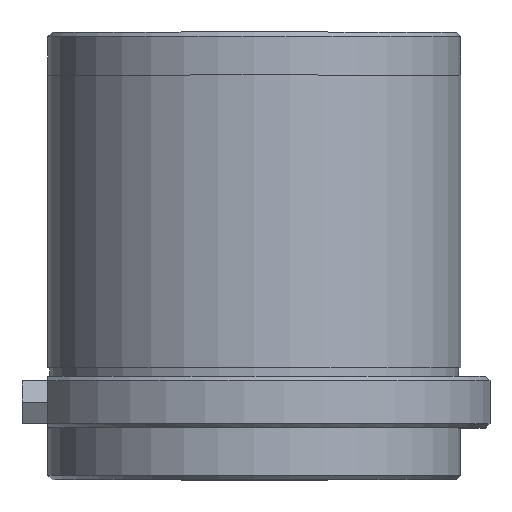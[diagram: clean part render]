
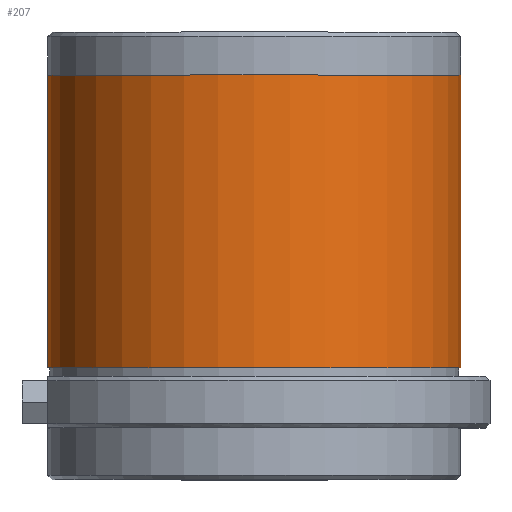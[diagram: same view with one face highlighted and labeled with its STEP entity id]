
A CAD part, top view. The second image highlights one B-rep face of the part: STEP entity #207.
In plain terms, the highlighted cylindrical face has radius 24 mm (diameter 48 mm), a full revolution.
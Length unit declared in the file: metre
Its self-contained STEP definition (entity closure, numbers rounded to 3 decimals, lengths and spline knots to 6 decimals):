
#207 = ADVANCED_FACE( '', ( #311, #312 ), #313, .T. );
#311 = FACE_OUTER_BOUND( '', #442, .T. );
#312 = FACE_OUTER_BOUND( '', #443, .T. );
#313 = CYLINDRICAL_SURFACE( '', #444, 0.024 );
#442 = EDGE_LOOP( '', ( #1821 ) );
#443 = EDGE_LOOP( '', ( #1822 ) );
#444 = AXIS2_PLACEMENT_3D( '', #1823, #1824, #1825 );
#1821 = ORIENTED_EDGE( '', *, *, #1963, .T. );
#1822 = ORIENTED_EDGE( '', *, *, #1964, .F. );
#1823 = CARTESIAN_POINT( '', ( 0., 0., 0. ) );
#1824 = DIRECTION( '', ( 0., 1., 0. ) );
#1825 = DIRECTION( '', ( 0., 0., -1. ) );
#1963 = EDGE_CURVE( '', #2084, #2084, #2085, .T. );
#1964 = EDGE_CURVE( '', #2086, #2086, #2087, .T. );
#2084 = VERTEX_POINT( '', #2291 );
#2085 = CIRCLE( '', #2292, 0.024 );
#2086 = VERTEX_POINT( '', #2293 );
#2087 = CIRCLE( '', #2294, 0.024 );
#2291 = CARTESIAN_POINT( '', ( 0., 0.041, -0.024 ) );
#2292 = AXIS2_PLACEMENT_3D( '', #3098, #3099, #3100 );
#2293 = CARTESIAN_POINT( '', ( 0., 0.007, -0.024 ) );
#2294 = AXIS2_PLACEMENT_3D( '', #3101, #3102, #3103 );
#3098 = CARTESIAN_POINT( '', ( 0., 0.041, 0. ) );
#3099 = DIRECTION( '', ( 0., -1., 0. ) );
#3100 = DIRECTION( '', ( 0., 0., -1. ) );
#3101 = CARTESIAN_POINT( '', ( 0., 0.007, 0. ) );
#3102 = DIRECTION( '', ( 0., -1., 0. ) );
#3103 = DIRECTION( '', ( 0., 0., -1. ) );
